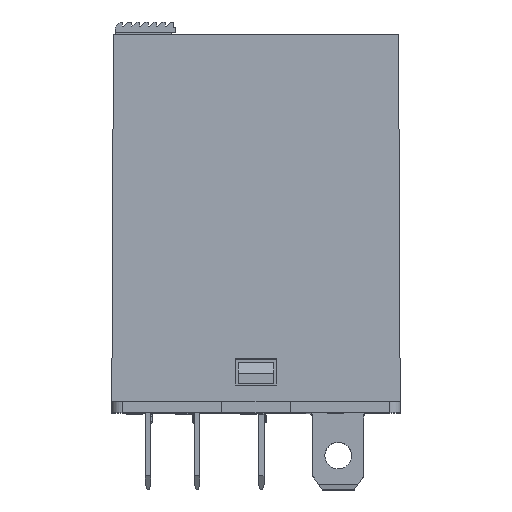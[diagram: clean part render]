
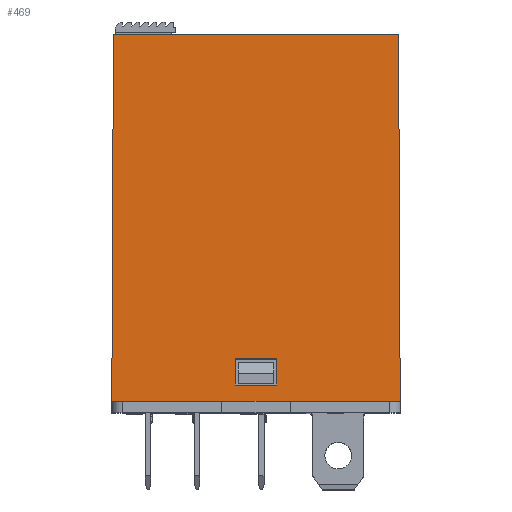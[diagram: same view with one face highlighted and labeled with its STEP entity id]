
A CAD part, top view. The second image highlights one B-rep face of the part: STEP entity #469.
In plain terms, the highlighted planar face has unit normal (0, 0.004, 1).
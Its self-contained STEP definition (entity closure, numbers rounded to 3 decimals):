
#410 = CARTESIAN_POINT ( 'NONE',  ( -1.95, 5.1, 10.483 ) ) ;
#469 = ADVANCED_FACE ( 'NONE', ( #3561, #15654 ), #10021, .T. ) ;
#1123 = VERTEX_POINT ( 'NONE', #12625 ) ;
#1327 = VERTEX_POINT ( 'NONE', #17188 ) ;
#1455 = LINE ( 'NONE', #4595, #18820 ) ;
#1467 = LINE ( 'NONE', #19323, #18831 ) ;
#1497 = VECTOR ( 'NONE', #25011, 1000. ) ;
#1803 = CARTESIAN_POINT ( 'NONE',  ( 3.2, 1.1, 10.5 ) ) ;
#2329 = ORIENTED_EDGE ( 'NONE', *, *, #5818, .T. ) ;
#2344 = EDGE_CURVE ( 'NONE', #2609, #8607, #20472, .T. ) ;
#2609 = VERTEX_POINT ( 'NONE', #16823 ) ;
#2696 = DIRECTION ( 'NONE',  ( 1., 0., 0. ) ) ;
#3420 = VECTOR ( 'NONE', #25385, 1000. ) ;
#3561 = FACE_OUTER_BOUND ( 'NONE', #28369, .T. ) ;
#3766 = CARTESIAN_POINT ( 'NONE',  ( -1.95, 5.1, 10.483 ) ) ;
#3805 = CARTESIAN_POINT ( 'NONE',  ( -13.5, 1.1, 10.5 ) ) ;
#3906 = EDGE_CURVE ( 'NONE', #26309, #14744, #9476, .T. ) ;
#4280 = ORIENTED_EDGE ( 'NONE', *, *, #9640, .T. ) ;
#4376 = VECTOR ( 'NONE', #8000, 1000. ) ;
#4478 = CARTESIAN_POINT ( 'NONE',  ( -13.5, 1.1, 10.5 ) ) ;
#4595 = CARTESIAN_POINT ( 'NONE',  ( -13.5, 1.1, 10.5 ) ) ;
#4606 = ORIENTED_EDGE ( 'NONE', *, *, #8805, .T. ) ;
#4702 = DIRECTION ( 'NONE',  ( 1., 0., 0. ) ) ;
#4926 = LINE ( 'NONE', #3766, #29052 ) ;
#5036 = VERTEX_POINT ( 'NONE', #9521 ) ;
#5220 = CARTESIAN_POINT ( 'NONE',  ( -13.5, 1.1, 10.5 ) ) ;
#5737 = DIRECTION ( 'NONE',  ( 1., 0., 0. ) ) ;
#5818 = EDGE_CURVE ( 'NONE', #22174, #26309, #15850, .T. ) ;
#6540 = VECTOR ( 'NONE', #23094, 1000. ) ;
#6859 = CARTESIAN_POINT ( 'NONE',  ( -13.351, 35.4, 10.35 ) ) ;
#7021 = ORIENTED_EDGE ( 'NONE', *, *, #15566, .T. ) ;
#7052 = DIRECTION ( 'NONE',  ( -1., 0., 0. ) ) ;
#7234 = CARTESIAN_POINT ( 'NONE',  ( -1.95, 1.1, 10.5 ) ) ;
#7278 = EDGE_CURVE ( 'NONE', #15259, #1327, #26048, .T. ) ;
#7866 = VECTOR ( 'NONE', #23274, 1000. ) ;
#7914 = EDGE_CURVE ( 'NONE', #1123, #22174, #22460, .T. ) ;
#8000 = DIRECTION ( 'NONE',  ( 0., -1., 0.004 ) ) ;
#8607 = VERTEX_POINT ( 'NONE', #27242 ) ;
#8805 = EDGE_CURVE ( 'NONE', #20187, #21920, #21343, .T. ) ;
#9041 = ORIENTED_EDGE ( 'NONE', *, *, #18931, .T. ) ;
#9476 = LINE ( 'NONE', #7234, #3420 ) ;
#9521 = CARTESIAN_POINT ( 'NONE',  ( 12.5, 1.1, 10.5 ) ) ;
#9568 = ORIENTED_EDGE ( 'NONE', *, *, #2344, .F. ) ;
#9640 = EDGE_CURVE ( 'NONE', #1327, #20187, #1455, .T. ) ;
#9814 = CARTESIAN_POINT ( 'NONE',  ( 13.5, 1.192, 10.5 ) ) ;
#9826 = VECTOR ( 'NONE', #7052, 1000. ) ;
#10021 = PLANE ( 'NONE',  #17440 ) ;
#12272 = DIRECTION ( 'NONE',  ( 0., 0.004, 1. ) ) ;
#12500 = VECTOR ( 'NONE', #19673, 1000. ) ;
#12625 = CARTESIAN_POINT ( 'NONE',  ( 1.95, 5.1, 10.483 ) ) ;
#12669 = CARTESIAN_POINT ( 'NONE',  ( -1.95, 2.6, 10.493 ) ) ;
#13424 = CARTESIAN_POINT ( 'NONE',  ( -3.2, 1.1, 10.5 ) ) ;
#13552 = LINE ( 'NONE', #6859, #1497 ) ;
#14428 = CARTESIAN_POINT ( 'NONE',  ( -13.35, 35.4, 10.35 ) ) ;
#14462 = VECTOR ( 'NONE', #25645, 1000. ) ;
#14720 = LINE ( 'NONE', #27533, #6540 ) ;
#14744 = VERTEX_POINT ( 'NONE', #410 ) ;
#15259 = VERTEX_POINT ( 'NONE', #4478 ) ;
#15566 = EDGE_CURVE ( 'NONE', #14744, #1123, #4926, .T. ) ;
#15654 = FACE_BOUND ( 'NONE', #28631, .T. ) ;
#15850 = LINE ( 'NONE', #22916, #9826 ) ;
#16823 = CARTESIAN_POINT ( 'NONE',  ( 13.35, 35.4, 10.35 ) ) ;
#17188 = CARTESIAN_POINT ( 'NONE',  ( -12.5, 1.1, 10.5 ) ) ;
#17440 = AXIS2_PLACEMENT_3D ( 'NONE', #23567, #12272, #28098 ) ;
#18469 = ORIENTED_EDGE ( 'NONE', *, *, #7278, .T. ) ;
#18590 = VECTOR ( 'NONE', #2696, 1000. ) ;
#18820 = VECTOR ( 'NONE', #4702, 1000. ) ;
#18831 = VECTOR ( 'NONE', #5737, 1000. ) ;
#18931 = EDGE_CURVE ( 'NONE', #19916, #15259, #14720, .T. ) ;
#19323 = CARTESIAN_POINT ( 'NONE',  ( -13.5, 1.1, 10.5 ) ) ;
#19673 = DIRECTION ( 'NONE',  ( 1., 0., 0. ) ) ;
#19916 = VERTEX_POINT ( 'NONE', #14428 ) ;
#20187 = VERTEX_POINT ( 'NONE', #13424 ) ;
#20472 = LINE ( 'NONE', #9814, #14462 ) ;
#20939 = ORIENTED_EDGE ( 'NONE', *, *, #3906, .T. ) ;
#21343 = LINE ( 'NONE', #5220, #7866 ) ;
#21920 = VERTEX_POINT ( 'NONE', #1803 ) ;
#22080 = ORIENTED_EDGE ( 'NONE', *, *, #27216, .T. ) ;
#22174 = VERTEX_POINT ( 'NONE', #24637 ) ;
#22460 = LINE ( 'NONE', #26139, #4376 ) ;
#22916 = CARTESIAN_POINT ( 'NONE',  ( -13.5, 2.6, 10.493 ) ) ;
#23094 = DIRECTION ( 'NONE',  ( -0.004, -1., 0.004 ) ) ;
#23274 = DIRECTION ( 'NONE',  ( 1., 0., 0. ) ) ;
#23567 = CARTESIAN_POINT ( 'NONE',  ( -13.5, 1.1, 10.5 ) ) ;
#23611 = ORIENTED_EDGE ( 'NONE', *, *, #7914, .T. ) ;
#23617 = EDGE_CURVE ( 'NONE', #21920, #5036, #25248, .T. ) ;
#23853 = EDGE_CURVE ( 'NONE', #19916, #2609, #13552, .T. ) ;
#23990 = DIRECTION ( 'NONE',  ( 1., 0., 0. ) ) ;
#24637 = CARTESIAN_POINT ( 'NONE',  ( 1.95, 2.6, 10.493 ) ) ;
#25011 = DIRECTION ( 'NONE',  ( 1., 0., 0. ) ) ;
#25248 = LINE ( 'NONE', #3805, #12500 ) ;
#25367 = ORIENTED_EDGE ( 'NONE', *, *, #23617, .T. ) ;
#25385 = DIRECTION ( 'NONE',  ( 0., 1., -0.004 ) ) ;
#25645 = DIRECTION ( 'NONE',  ( 0.004, -1., 0.004 ) ) ;
#26048 = LINE ( 'NONE', #27543, #18590 ) ;
#26139 = CARTESIAN_POINT ( 'NONE',  ( 1.95, 1.1, 10.5 ) ) ;
#26309 = VERTEX_POINT ( 'NONE', #12669 ) ;
#26705 = ORIENTED_EDGE ( 'NONE', *, *, #23853, .F. ) ;
#27216 = EDGE_CURVE ( 'NONE', #5036, #8607, #1467, .T. ) ;
#27242 = CARTESIAN_POINT ( 'NONE',  ( 13.5, 1.1, 10.5 ) ) ;
#27533 = CARTESIAN_POINT ( 'NONE',  ( -13.5, 1.1, 10.5 ) ) ;
#27543 = CARTESIAN_POINT ( 'NONE',  ( -13.5, 1.1, 10.5 ) ) ;
#28098 = DIRECTION ( 'NONE',  ( 1., 0., 0. ) ) ;
#28369 = EDGE_LOOP ( 'NONE', ( #9568, #26705, #9041, #18469, #4280, #4606, #25367, #22080 ) ) ;
#28631 = EDGE_LOOP ( 'NONE', ( #20939, #7021, #23611, #2329 ) ) ;
#29052 = VECTOR ( 'NONE', #23990, 1000. ) ;
